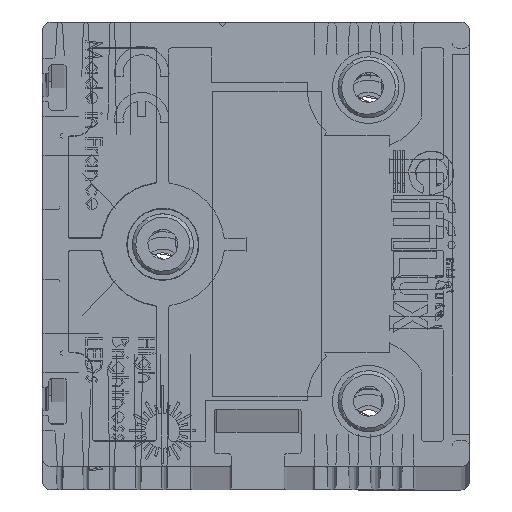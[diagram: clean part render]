
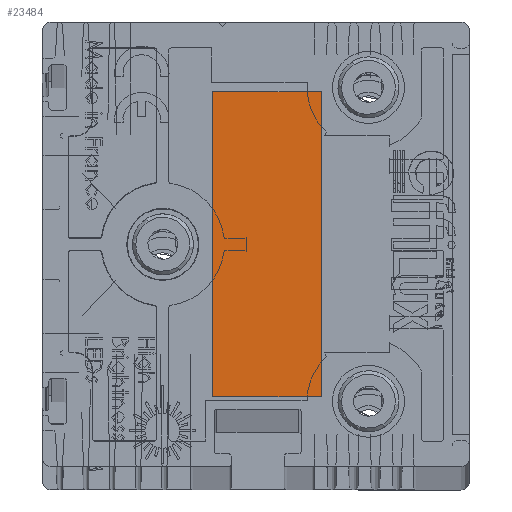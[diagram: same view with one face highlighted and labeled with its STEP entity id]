
A CAD part, top view. The second image highlights one B-rep face of the part: STEP entity #23484.
In plain terms, the highlighted planar face has unit normal (0, 0, 1).
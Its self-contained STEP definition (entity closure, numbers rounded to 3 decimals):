
#1660 = VECTOR ( 'NONE', #33106, 1000. ) ;
#1938 = VERTEX_POINT ( 'NONE', #16945 ) ;
#2300 = FACE_OUTER_BOUND ( 'NONE', #11526, .T. ) ;
#2678 = DIRECTION ( 'NONE',  ( 1., 0., 0. ) ) ;
#2748 = DIRECTION ( 'NONE',  ( 0., -1., 0. ) ) ;
#2772 = ORIENTED_EDGE ( 'NONE', *, *, #23022, .T. ) ;
#6134 = DIRECTION ( 'NONE',  ( 0., 0., 1. ) ) ;
#7504 = LINE ( 'NONE', #12021, #15773 ) ;
#8150 = CARTESIAN_POINT ( 'NONE',  ( 7.5, 17.5, 1534.9 ) ) ;
#10277 = ORIENTED_EDGE ( 'NONE', *, *, #18129, .T. ) ;
#11526 = EDGE_LOOP ( 'NONE', ( #13846, #10277, #2772, #11676 ) ) ;
#11676 = ORIENTED_EDGE ( 'NONE', *, *, #33561, .T. ) ;
#12021 = CARTESIAN_POINT ( 'NONE',  ( 7.5, 17.5, 1534.9 ) ) ;
#13560 = VERTEX_POINT ( 'NONE', #27785 ) ;
#13846 = ORIENTED_EDGE ( 'NONE', *, *, #32839, .T. ) ;
#15773 = VECTOR ( 'NONE', #40088, 1000. ) ;
#16945 = CARTESIAN_POINT ( 'NONE',  ( -5., 17.5, 1534.9 ) ) ;
#17181 = VERTEX_POINT ( 'NONE', #33980 ) ;
#17316 = VECTOR ( 'NONE', #2678, 1000. ) ;
#18129 = EDGE_CURVE ( 'NONE', #1938, #33941, #24458, .T. ) ;
#23022 = EDGE_CURVE ( 'NONE', #33941, #17181, #33940, .T. ) ;
#23484 = ADVANCED_FACE ( 'NONE', ( #2300 ), #27772, .T. ) ;
#24284 = CARTESIAN_POINT ( 'NONE',  ( 7.5, -17.5, 1534.9 ) ) ;
#24458 = LINE ( 'NONE', #39982, #40017 ) ;
#24803 = CARTESIAN_POINT ( 'NONE',  ( -5., 17.5, 1534.9 ) ) ;
#25487 = LINE ( 'NONE', #8150, #1660 ) ;
#27772 = PLANE ( 'NONE',  #29963 ) ;
#27785 = CARTESIAN_POINT ( 'NONE',  ( 7.5, 17.5, 1534.9 ) ) ;
#27884 = DIRECTION ( 'NONE',  ( 1., 0., 0. ) ) ;
#29963 = AXIS2_PLACEMENT_3D ( 'NONE', #24803, #6134, #27884 ) ;
#32839 = EDGE_CURVE ( 'NONE', #13560, #1938, #7504, .T. ) ;
#33106 = DIRECTION ( 'NONE',  ( 0., 1., 0. ) ) ;
#33561 = EDGE_CURVE ( 'NONE', #17181, #13560, #25487, .T. ) ;
#33940 = LINE ( 'NONE', #24284, #17316 ) ;
#33941 = VERTEX_POINT ( 'NONE', #38080 ) ;
#33980 = CARTESIAN_POINT ( 'NONE',  ( 7.5, -17.5, 1534.9 ) ) ;
#38080 = CARTESIAN_POINT ( 'NONE',  ( -5., -17.5, 1534.9 ) ) ;
#39982 = CARTESIAN_POINT ( 'NONE',  ( -5., 17.5, 1534.9 ) ) ;
#40017 = VECTOR ( 'NONE', #2748, 1000. ) ;
#40088 = DIRECTION ( 'NONE',  ( -1., 0., 0. ) ) ;
